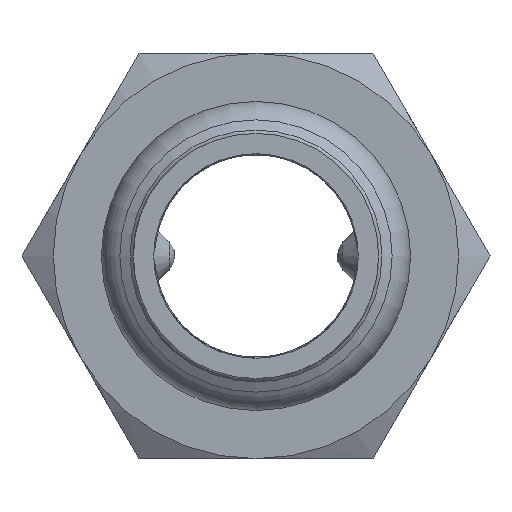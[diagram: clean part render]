
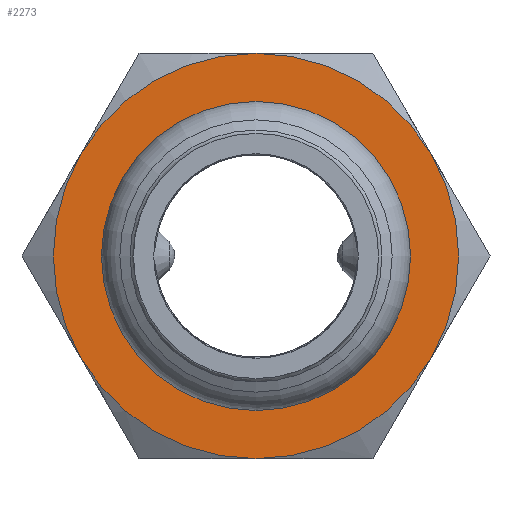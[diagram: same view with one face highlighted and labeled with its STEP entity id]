
A CAD part, left-side view. The second image highlights one B-rep face of the part: STEP entity #2273.
In plain terms, the highlighted planar face has unit normal (-1, 0, 0) as drawn and (0, 0, -1) by its records, which use the part's own axes.
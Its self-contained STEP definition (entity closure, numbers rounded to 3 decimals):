
#1463=CARTESIAN_POINT('',(-12.99,7.5,0.));
#1464=VERTEX_POINT('',#1463);
#1478=CARTESIAN_POINT('',(0.,15.,0.));
#1479=VERTEX_POINT('',#1478);
#1493=CARTESIAN_POINT('',(0.0,0.0,0.0));
#1494=DIRECTION('',(0.0,0.0,-1.0));
#1495=DIRECTION('',(1.0,0.0,0.0));
#1496=AXIS2_PLACEMENT_3D('',#1493,#1494,#1495);
#1497=CIRCLE('',#1496,15.);
#1498=EDGE_CURVE('',#1464,#1479,#1497,.T.);
#1510=CARTESIAN_POINT('',(-12.99,-7.5,0.));
#1511=VERTEX_POINT('',#1510);
#1538=CARTESIAN_POINT('',(0.0,0.0,0.0));
#1539=DIRECTION('',(0.0,0.0,-1.0));
#1540=DIRECTION('',(1.0,0.0,0.0));
#1541=AXIS2_PLACEMENT_3D('',#1538,#1539,#1540);
#1542=CIRCLE('',#1541,15.);
#1543=EDGE_CURVE('',#1511,#1464,#1542,.T.);
#1555=CARTESIAN_POINT('',(0.,-15.,0.));
#1556=VERTEX_POINT('',#1555);
#1583=CARTESIAN_POINT('',(0.0,0.0,0.0));
#1584=DIRECTION('',(0.0,0.0,-1.0));
#1585=DIRECTION('',(1.0,0.0,0.0));
#1586=AXIS2_PLACEMENT_3D('',#1583,#1584,#1585);
#1587=CIRCLE('',#1586,15.);
#1588=EDGE_CURVE('',#1556,#1511,#1587,.T.);
#1613=CARTESIAN_POINT('',(12.99,-7.5,0.));
#1614=VERTEX_POINT('',#1613);
#1615=CARTESIAN_POINT('',(0.0,0.0,0.0));
#1616=DIRECTION('',(0.0,0.0,-1.0));
#1617=DIRECTION('',(1.0,0.0,0.0));
#1618=AXIS2_PLACEMENT_3D('',#1615,#1616,#1617);
#1619=CIRCLE('',#1618,15.);
#1620=EDGE_CURVE('',#1614,#1556,#1619,.T.);
#1658=CARTESIAN_POINT('',(12.99,7.5,0.));
#1659=VERTEX_POINT('',#1658);
#1660=CARTESIAN_POINT('',(0.0,0.0,0.0));
#1661=DIRECTION('',(0.0,0.0,-1.0));
#1662=DIRECTION('',(1.0,0.0,0.0));
#1663=AXIS2_PLACEMENT_3D('',#1660,#1661,#1662);
#1664=CIRCLE('',#1663,15.);
#1665=EDGE_CURVE('',#1659,#1614,#1664,.T.);
#1703=CARTESIAN_POINT('',(0.0,0.0,0.0));
#1704=DIRECTION('',(0.0,0.0,-1.0));
#1705=DIRECTION('',(1.0,0.0,0.0));
#1706=AXIS2_PLACEMENT_3D('',#1703,#1704,#1705);
#1707=CIRCLE('',#1706,15.);
#1708=EDGE_CURVE('',#1479,#1659,#1707,.T.);
#2181=CARTESIAN_POINT('',(-10.75,0.0,0.0));
#2182=VERTEX_POINT('',#2181);
#2183=CARTESIAN_POINT('',(0.0,0.0,0.0));
#2184=DIRECTION('',(0.0,0.0,1.0));
#2185=DIRECTION('',(-1.0,0.0,0.0));
#2186=AXIS2_PLACEMENT_3D('',#2183,#2184,#2185);
#2187=CIRCLE('',#2186,10.75);
#2188=EDGE_CURVE('',#2182,#2182,#2187,.T.);
#2257=CARTESIAN_POINT('',(0.,0.,0.0));
#2258=DIRECTION('',(0.0,0.0,1.0));
#2259=DIRECTION('',(1.0,0.0,0.0));
#2260=AXIS2_PLACEMENT_3D('',#2257,#2258,#2259);
#2261=PLANE('',#2260);
#2262=ORIENTED_EDGE('',*,*,#1708,.T.);
#2263=ORIENTED_EDGE('',*,*,#1665,.T.);
#2264=ORIENTED_EDGE('',*,*,#1620,.T.);
#2265=ORIENTED_EDGE('',*,*,#1588,.T.);
#2266=ORIENTED_EDGE('',*,*,#1543,.T.);
#2267=ORIENTED_EDGE('',*,*,#1498,.T.);
#2268=EDGE_LOOP('',(#2262,#2263,#2264,#2265,#2266,#2267));
#2269=FACE_OUTER_BOUND('',#2268,.T.);
#2270=ORIENTED_EDGE('',*,*,#2188,.T.);
#2271=EDGE_LOOP('',(#2270));
#2272=FACE_BOUND('',#2271,.T.);
#2273=ADVANCED_FACE('',(#2269,#2272),#2261,.F.);
